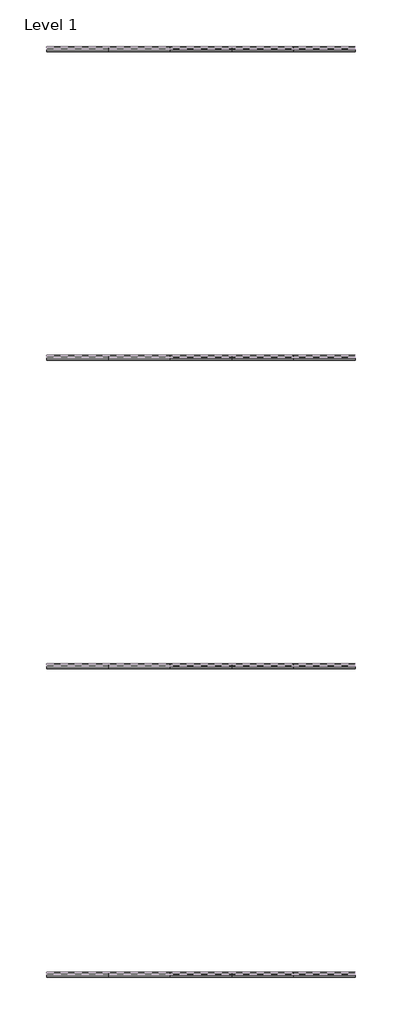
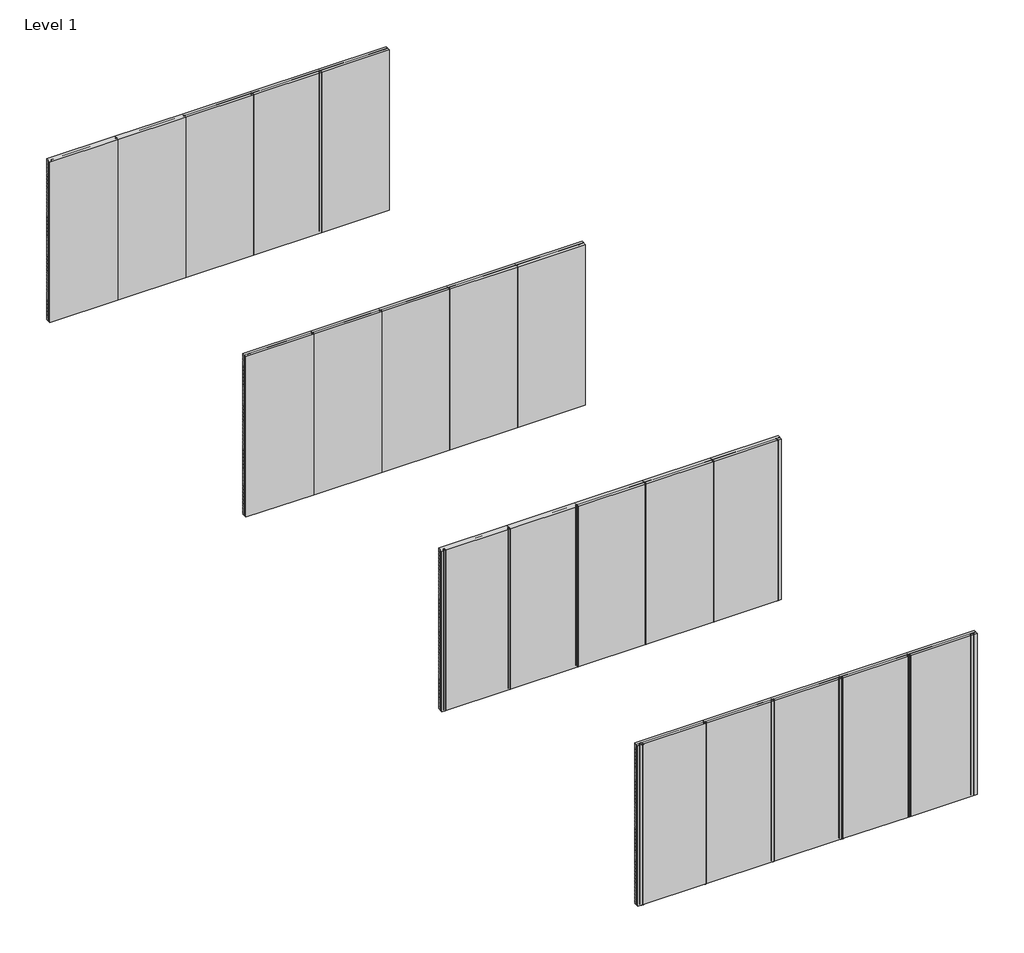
# One storey, part 1 of 7: 24 members, 24 plates, 16 proxies.
"""IFC4 building model written with IfcOpenShell, lengths in millimetres."""

from ifc_helpers import new_model, si_unit, point, frame, frame_2d, origin, origin_with_axes, place, context, project, spatial, polyline, circle_curve, trimmed, segment, composite_curve, outline, extrude, transform, mapped, element, save
from components import rectangular_mullion_aaee4241, rectangular_mullion_95122cee, rectangular_mullion_bf4a34f8, rectangular_mullion_973fa29d, rectangular_mullion_72dc8ee9, rectangular_mullion_73b5f130, rectangular_mullion_f7d141da, rectangular_mullion_19c265a5, rectangular_mullion_cd9c8af6, rectangular_mullion_e211853c, rectangular_mullion_fbfb117e, rectangular_mullion_bec287e4, empty_system_panel_empty_50a928b3

model = new_model("IFC4")

# Units and contexts
model_context = context("Model", 3, world=origin())
ifc_project = project(units=[si_unit("LENGTHUNIT", "METRE", prefix="MILLI")], contexts=[model_context])

# Site, building, storey
site = spatial("IfcSite", under=ifc_project)
building = spatial("IfcBuilding", under=site)
storey = spatial("IfcBuildingStorey", under=building, Name="Level 1", Elevation=0.0)

# Proxies
placement = place(None, origin())
element("IfcBuildingElementProxy", 1, Name="Wall Sweeps", at=placement, inside=storey, context=model_context, shape_type="SweptSolid", body=[
    extrude(outline(composite_curve([segment(polyline([(-13992.5, 2976.0025181), (-13992.5, 2983.9509429), (-13994.5, 2983.9509429), (-13994.5, 2981.5421319), (-13996.0, 2981.5421319), (-13996.0, 2988.6499999), (-13994.5, 2988.6499999), (-13994.5, 2985.4509429), (-13992.5, 2985.4509429), (-13992.5, 2988.7999999), (-13992.1784609, 2990.0), (-13987.7000054, 2990.0), (-13987.7000054, 2986.8499997), (-13989.0835735, 2988.4999997), (-13991.0, 2988.4999997), (-13991.0, 2976.6085574), (-13946.0, 2930.0096933), (-13946.0, 2914.0), (-13947.5, 2916.6798), (-13947.5, 2919.1208496), (-13948.5, 2919.1208496), (-13948.5, 2920.6208496), (-13947.5, 2920.6208496), (-13947.5, 2929.4036539), (-13961.2088107, 2943.599543), (-13963.4375599, 2941.3707939), (-13962.8739549, 2940.8071888)]), True, "CONTINUOUS"), segment(trimmed(circle_curve(frame_2d((-13963.2275083, 2940.4536354)), 0.5), [point((-13962.8739549, 2940.8071888))], [point((-13963.3569178, 2939.9706725))], False, "CARTESIAN"), True, "CONTINUOUS"), segment(polyline([(-13963.3569178, 2939.9706725), (-13966.1977917, 2940.7318824), (-13962.250957, 2944.6787171), (-13992.5, 2976.0025181)]), True, "CONTINUOUS")], self_intersect=False)), frame((0.0, 0.0, 0.0), z_axis=(1.0, 0.0, 0.0), x_axis=(0.0, 1.0, 0.0)), (0.0, 0.0, 1.0), 6000.0),
])
element("IfcBuildingElementProxy", 2, Name="Wall Sweeps", at=placement, inside=storey, context=model_context, shape_type="SweptSolid", body=[
    extrude(outline(composite_curve([segment(polyline([(-13992.5, 2911.0025181), (-13992.5, 2918.9509429), (-13994.5, 2918.9509429), (-13994.5, 2916.5421319), (-13996.0, 2916.5421319), (-13996.0, 2923.6499999), (-13994.5, 2923.6499999), (-13994.5, 2920.4509429), (-13992.5, 2920.4509429), (-13992.5, 2923.7999999), (-13992.1784609, 2925.0), (-13987.7000054, 2925.0), (-13987.7000054, 2921.8499997), (-13989.0835735, 2923.4999997), (-13991.0, 2923.4999997), (-13991.0, 2911.6085574), (-13946.0, 2865.0096933), (-13946.0, 2849.0), (-13947.5, 2851.6798), (-13947.5, 2854.1208496), (-13948.5, 2854.1208496), (-13948.5, 2855.6208496), (-13947.5, 2855.6208496), (-13947.5, 2864.4036539), (-13961.2088107, 2878.599543), (-13963.4375599, 2876.3707939), (-13962.8739549, 2875.8071888)]), True, "CONTINUOUS"), segment(trimmed(circle_curve(frame_2d((-13963.2275083, 2875.4536354)), 0.5), [point((-13962.8739549, 2875.8071888))], [point((-13963.3569178, 2874.9706725))], False, "CARTESIAN"), True, "CONTINUOUS"), segment(polyline([(-13963.3569178, 2874.9706725), (-13966.1977917, 2875.7318824), (-13962.250957, 2879.6787171), (-13992.5, 2911.0025181)]), True, "CONTINUOUS")], self_intersect=False)), frame((0.0, 0.0, 0.0), z_axis=(1.0, 0.0, 0.0), x_axis=(0.0, 1.0, 0.0)), (0.0, 0.0, 1.0), 6000.0),
])
element("IfcBuildingElementProxy", 3, Name="Wall Sweeps", at=placement, inside=storey, context=model_context, shape_type="SweptSolid", body=[
    extrude(outline(composite_curve([segment(polyline([(-13992.5, 2846.0025181), (-13992.5, 2853.9509429), (-13994.5, 2853.9509429), (-13994.5, 2851.5421319), (-13996.0, 2851.5421319), (-13996.0, 2858.6499999), (-13994.5, 2858.6499999), (-13994.5, 2855.4509429), (-13992.5, 2855.4509429), (-13992.5, 2858.7999999), (-13992.1784609, 2860.0), (-13987.7000054, 2860.0), (-13987.7000054, 2856.8499997), (-13989.0835735, 2858.4999997), (-13991.0, 2858.4999997), (-13991.0, 2846.6085574), (-13946.0, 2800.0096933), (-13946.0, 2784.0), (-13947.5, 2786.6798), (-13947.5, 2789.1208496), (-13948.5, 2789.1208496), (-13948.5, 2790.6208496), (-13947.5, 2790.6208496), (-13947.5, 2799.4036539), (-13961.2088107, 2813.599543), (-13963.4375599, 2811.3707939), (-13962.8739549, 2810.8071888)]), True, "CONTINUOUS"), segment(trimmed(circle_curve(frame_2d((-13963.2275083, 2810.4536354)), 0.5), [point((-13962.8739549, 2810.8071888))], [point((-13963.3569178, 2809.9706725))], False, "CARTESIAN"), True, "CONTINUOUS"), segment(polyline([(-13963.3569178, 2809.9706725), (-13966.1977917, 2810.7318824), (-13962.250957, 2814.6787171), (-13992.5, 2846.0025181)]), True, "CONTINUOUS")], self_intersect=False)), frame((0.0, 0.0, 0.0), z_axis=(1.0, 0.0, 0.0), x_axis=(0.0, 1.0, 0.0)), (0.0, 0.0, 1.0), 6000.0),
])
element("IfcBuildingElementProxy", 4, Name="Wall Sweeps", at=placement, inside=storey, context=model_context, shape_type="SweptSolid", body=[
    extrude(outline(composite_curve([segment(polyline([(-13992.5, 2781.0025181), (-13992.5, 2788.9509429), (-13994.5, 2788.9509429), (-13994.5, 2786.5421319), (-13996.0, 2786.5421319), (-13996.0, 2793.6499999), (-13994.5, 2793.6499999), (-13994.5, 2790.4509429), (-13992.5, 2790.4509429), (-13992.5, 2793.7999999), (-13992.1784609, 2795.0), (-13987.7000054, 2795.0), (-13987.7000054, 2791.8499997), (-13989.0835735, 2793.4999997), (-13991.0, 2793.4999997), (-13991.0, 2781.6085574), (-13946.0, 2735.0096933), (-13946.0, 2719.0), (-13947.5, 2721.6798), (-13947.5, 2724.1208496), (-13948.5, 2724.1208496), (-13948.5, 2725.6208496), (-13947.5, 2725.6208496), (-13947.5, 2734.4036539), (-13961.2088107, 2748.599543), (-13963.4375599, 2746.3707939), (-13962.8739549, 2745.8071888)]), True, "CONTINUOUS"), segment(trimmed(circle_curve(frame_2d((-13963.2275083, 2745.4536354)), 0.5), [point((-13962.8739549, 2745.8071888))], [point((-13963.3569178, 2744.9706725))], False, "CARTESIAN"), True, "CONTINUOUS"), segment(polyline([(-13963.3569178, 2744.9706725), (-13966.1977917, 2745.7318824), (-13962.250957, 2749.6787171), (-13992.5, 2781.0025181)]), True, "CONTINUOUS")], self_intersect=False)), frame((0.0, 0.0, 0.0), z_axis=(1.0, 0.0, 0.0), x_axis=(0.0, 1.0, 0.0)), (0.0, 0.0, 1.0), 6000.0),
])
element("IfcBuildingElementProxy", 5, Name="Wall Sweeps", at=placement, inside=storey, context=model_context, shape_type="SweptSolid", body=[
    extrude(outline(composite_curve([segment(polyline([(-13992.5, 2716.0025181), (-13992.5, 2723.9509429), (-13994.5, 2723.9509429), (-13994.5, 2721.5421319), (-13996.0, 2721.5421319), (-13996.0, 2728.6499999), (-13994.5, 2728.6499999), (-13994.5, 2725.4509429), (-13992.5, 2725.4509429), (-13992.5, 2728.7999999), (-13992.1784609, 2730.0), (-13987.7000054, 2730.0), (-13987.7000054, 2726.8499997), (-13989.0835735, 2728.4999997), (-13991.0, 2728.4999997), (-13991.0, 2716.6085574), (-13946.0, 2670.0096933), (-13946.0, 2654.0), (-13947.5, 2656.6798), (-13947.5, 2659.1208496), (-13948.5, 2659.1208496), (-13948.5, 2660.6208496), (-13947.5, 2660.6208496), (-13947.5, 2669.4036539), (-13961.2088107, 2683.599543), (-13963.4375599, 2681.3707939), (-13962.8739549, 2680.8071888)]), True, "CONTINUOUS"), segment(trimmed(circle_curve(frame_2d((-13963.2275083, 2680.4536354)), 0.5), [point((-13962.8739549, 2680.8071888))], [point((-13963.3569178, 2679.9706725))], False, "CARTESIAN"), True, "CONTINUOUS"), segment(polyline([(-13963.3569178, 2679.9706725), (-13966.1977917, 2680.7318824), (-13962.250957, 2684.6787171), (-13992.5, 2716.0025181)]), True, "CONTINUOUS")], self_intersect=False)), frame((0.0, 0.0, 0.0), z_axis=(1.0, 0.0, 0.0), x_axis=(0.0, 1.0, 0.0)), (0.0, 0.0, 1.0), 6000.0),
])
element("IfcBuildingElementProxy", 6, Name="Wall Sweeps", at=placement, inside=storey, context=model_context, shape_type="SweptSolid", body=[
    extrude(outline(composite_curve([segment(polyline([(-13992.5, 2651.0025181), (-13992.5, 2658.9509429), (-13994.5, 2658.9509429), (-13994.5, 2656.5421319), (-13996.0, 2656.5421319), (-13996.0, 2663.6499999), (-13994.5, 2663.6499999), (-13994.5, 2660.4509429), (-13992.5, 2660.4509429), (-13992.5, 2663.7999999), (-13992.1784609, 2665.0), (-13987.7000054, 2665.0), (-13987.7000054, 2661.8499997), (-13989.0835735, 2663.4999997), (-13991.0, 2663.4999997), (-13991.0, 2651.6085574), (-13946.0, 2605.0096933), (-13946.0, 2589.0), (-13947.5, 2591.6798), (-13947.5, 2594.1208496), (-13948.5, 2594.1208496), (-13948.5, 2595.6208496), (-13947.5, 2595.6208496), (-13947.5, 2604.4036539), (-13961.2088107, 2618.599543), (-13963.4375599, 2616.3707939), (-13962.8739549, 2615.8071888)]), True, "CONTINUOUS"), segment(trimmed(circle_curve(frame_2d((-13963.2275083, 2615.4536354)), 0.5), [point((-13962.8739549, 2615.8071888))], [point((-13963.3569178, 2614.9706725))], False, "CARTESIAN"), True, "CONTINUOUS"), segment(polyline([(-13963.3569178, 2614.9706725), (-13966.1977917, 2615.7318824), (-13962.250957, 2619.6787171), (-13992.5, 2651.0025181)]), True, "CONTINUOUS")], self_intersect=False)), frame((0.0, 0.0, 0.0), z_axis=(1.0, 0.0, 0.0), x_axis=(0.0, 1.0, 0.0)), (0.0, 0.0, 1.0), 6000.0),
])
element("IfcBuildingElementProxy", 7, Name="Wall Sweeps", at=placement, inside=storey, context=model_context, shape_type="SweptSolid", body=[
    extrude(outline(composite_curve([segment(polyline([(-13992.5, 2586.0025181), (-13992.5, 2593.9509429), (-13994.5, 2593.9509429), (-13994.5, 2591.5421319), (-13996.0, 2591.5421319), (-13996.0, 2598.6499999), (-13994.5, 2598.6499999), (-13994.5, 2595.4509429), (-13992.5, 2595.4509429), (-13992.5, 2598.7999999), (-13992.1784609, 2600.0), (-13987.7000054, 2600.0), (-13987.7000054, 2596.8499997), (-13989.0835735, 2598.4999997), (-13991.0, 2598.4999997), (-13991.0, 2586.6085574), (-13946.0, 2540.0096933), (-13946.0, 2524.0), (-13947.5, 2526.6798), (-13947.5, 2529.1208496), (-13948.5, 2529.1208496), (-13948.5, 2530.6208496), (-13947.5, 2530.6208496), (-13947.5, 2539.4036539), (-13961.2088107, 2553.599543), (-13963.4375599, 2551.3707939), (-13962.8739549, 2550.8071888)]), True, "CONTINUOUS"), segment(trimmed(circle_curve(frame_2d((-13963.2275083, 2550.4536354)), 0.5), [point((-13962.8739549, 2550.8071888))], [point((-13963.3569178, 2549.9706725))], False, "CARTESIAN"), True, "CONTINUOUS"), segment(polyline([(-13963.3569178, 2549.9706725), (-13966.1977917, 2550.7318824), (-13962.250957, 2554.6787171), (-13992.5, 2586.0025181)]), True, "CONTINUOUS")], self_intersect=False)), frame((0.0, 0.0, 0.0), z_axis=(1.0, 0.0, 0.0), x_axis=(0.0, 1.0, 0.0)), (0.0, 0.0, 1.0), 6000.0),
])
element("IfcBuildingElementProxy", 8, Name="Wall Sweeps", at=placement, inside=storey, context=model_context, shape_type="SweptSolid", body=[
    extrude(outline(composite_curve([segment(polyline([(-13992.5, 2521.0025181), (-13992.5, 2528.9509429), (-13994.5, 2528.9509429), (-13994.5, 2526.5421319), (-13996.0, 2526.5421319), (-13996.0, 2533.6499999), (-13994.5, 2533.6499999), (-13994.5, 2530.4509429), (-13992.5, 2530.4509429), (-13992.5, 2533.7999999), (-13992.1784609, 2535.0), (-13987.7000054, 2535.0), (-13987.7000054, 2531.8499997), (-13989.0835735, 2533.4999997), (-13991.0, 2533.4999997), (-13991.0, 2521.6085574), (-13946.0, 2475.0096933), (-13946.0, 2459.0), (-13947.5, 2461.6798), (-13947.5, 2464.1208496), (-13948.5, 2464.1208496), (-13948.5, 2465.6208496), (-13947.5, 2465.6208496), (-13947.5, 2474.4036539), (-13961.2088107, 2488.599543), (-13963.4375599, 2486.3707939), (-13962.8739549, 2485.8071888)]), True, "CONTINUOUS"), segment(trimmed(circle_curve(frame_2d((-13963.2275083, 2485.4536354)), 0.5), [point((-13962.8739549, 2485.8071888))], [point((-13963.3569178, 2484.9706725))], False, "CARTESIAN"), True, "CONTINUOUS"), segment(polyline([(-13963.3569178, 2484.9706725), (-13966.1977917, 2485.7318824), (-13962.250957, 2489.6787171), (-13992.5, 2521.0025181)]), True, "CONTINUOUS")], self_intersect=False)), frame((0.0, 0.0, 0.0), z_axis=(1.0, 0.0, 0.0), x_axis=(0.0, 1.0, 0.0)), (0.0, 0.0, 1.0), 6000.0),
])
element("IfcBuildingElementProxy", 9, Name="Wall Sweeps", at=placement, inside=storey, context=model_context, shape_type="SweptSolid", body=[
    extrude(outline(composite_curve([segment(polyline([(-13992.5, 2456.0025181), (-13992.5, 2463.9509429), (-13994.5, 2463.9509429), (-13994.5, 2461.5421319), (-13996.0, 2461.5421319), (-13996.0, 2468.6499999), (-13994.5, 2468.6499999), (-13994.5, 2465.4509429), (-13992.5, 2465.4509429), (-13992.5, 2468.7999999), (-13992.1784609, 2470.0), (-13987.7000054, 2470.0), (-13987.7000054, 2466.8499997), (-13989.0835735, 2468.4999997), (-13991.0, 2468.4999997), (-13991.0, 2456.6085574), (-13946.0, 2410.0096933), (-13946.0, 2394.0), (-13947.5, 2396.6798), (-13947.5, 2399.1208496), (-13948.5, 2399.1208496), (-13948.5, 2400.6208496), (-13947.5, 2400.6208496), (-13947.5, 2409.4036539), (-13961.2088107, 2423.599543), (-13963.4375599, 2421.3707939), (-13962.8739549, 2420.8071888)]), True, "CONTINUOUS"), segment(trimmed(circle_curve(frame_2d((-13963.2275083, 2420.4536354)), 0.5), [point((-13962.8739549, 2420.8071888))], [point((-13963.3569178, 2419.9706725))], False, "CARTESIAN"), True, "CONTINUOUS"), segment(polyline([(-13963.3569178, 2419.9706725), (-13966.1977917, 2420.7318824), (-13962.250957, 2424.6787171), (-13992.5, 2456.0025181)]), True, "CONTINUOUS")], self_intersect=False)), frame((0.0, 0.0, 0.0), z_axis=(1.0, 0.0, 0.0), x_axis=(0.0, 1.0, 0.0)), (0.0, 0.0, 1.0), 6000.0),
])
element("IfcBuildingElementProxy", 10, Name="Wall Sweeps", at=placement, inside=storey, context=model_context, shape_type="SweptSolid", body=[
    extrude(outline(composite_curve([segment(polyline([(-13992.5, 2391.0025181), (-13992.5, 2398.9509429), (-13994.5, 2398.9509429), (-13994.5, 2396.5421319), (-13996.0, 2396.5421319), (-13996.0, 2403.6499999), (-13994.5, 2403.6499999), (-13994.5, 2400.4509429), (-13992.5, 2400.4509429), (-13992.5, 2403.7999999), (-13992.1784609, 2405.0), (-13987.7000054, 2405.0), (-13987.7000054, 2401.8499997), (-13989.0835735, 2403.4999997), (-13991.0, 2403.4999997), (-13991.0, 2391.6085574), (-13946.0, 2345.0096933), (-13946.0, 2329.0), (-13947.5, 2331.6798), (-13947.5, 2334.1208496), (-13948.5, 2334.1208496), (-13948.5, 2335.6208496), (-13947.5, 2335.6208496), (-13947.5, 2344.4036539), (-13961.2088107, 2358.599543), (-13963.4375599, 2356.3707939), (-13962.8739549, 2355.8071888)]), True, "CONTINUOUS"), segment(trimmed(circle_curve(frame_2d((-13963.2275083, 2355.4536354)), 0.5), [point((-13962.8739549, 2355.8071888))], [point((-13963.3569178, 2354.9706725))], False, "CARTESIAN"), True, "CONTINUOUS"), segment(polyline([(-13963.3569178, 2354.9706725), (-13966.1977917, 2355.7318824), (-13962.250957, 2359.6787171), (-13992.5, 2391.0025181)]), True, "CONTINUOUS")], self_intersect=False)), frame((0.0, 0.0, 0.0), z_axis=(1.0, 0.0, 0.0), x_axis=(0.0, 1.0, 0.0)), (0.0, 0.0, 1.0), 6000.0),
])
element("IfcBuildingElementProxy", 11, Name="Wall Sweeps", at=placement, inside=storey, context=model_context, shape_type="SweptSolid", body=[
    extrude(outline(composite_curve([segment(polyline([(-13992.5, 2326.0025181), (-13992.5, 2333.9509429), (-13994.5, 2333.9509429), (-13994.5, 2331.5421319), (-13996.0, 2331.5421319), (-13996.0, 2338.6499999), (-13994.5, 2338.6499999), (-13994.5, 2335.4509429), (-13992.5, 2335.4509429), (-13992.5, 2338.7999999), (-13992.1784609, 2340.0), (-13987.7000054, 2340.0), (-13987.7000054, 2336.8499997), (-13989.0835735, 2338.4999997), (-13991.0, 2338.4999997), (-13991.0, 2326.6085574), (-13946.0, 2280.0096933), (-13946.0, 2264.0), (-13947.5, 2266.6798), (-13947.5, 2269.1208496), (-13948.5, 2269.1208496), (-13948.5, 2270.6208496), (-13947.5, 2270.6208496), (-13947.5, 2279.4036539), (-13961.2088107, 2293.599543), (-13963.4375599, 2291.3707939), (-13962.8739549, 2290.8071888)]), True, "CONTINUOUS"), segment(trimmed(circle_curve(frame_2d((-13963.2275083, 2290.4536354)), 0.5), [point((-13962.8739549, 2290.8071888))], [point((-13963.3569178, 2289.9706725))], False, "CARTESIAN"), True, "CONTINUOUS"), segment(polyline([(-13963.3569178, 2289.9706725), (-13966.1977917, 2290.7318824), (-13962.250957, 2294.6787171), (-13992.5, 2326.0025181)]), True, "CONTINUOUS")], self_intersect=False)), frame((0.0, 0.0, 0.0), z_axis=(1.0, 0.0, 0.0), x_axis=(0.0, 1.0, 0.0)), (0.0, 0.0, 1.0), 6000.0),
])
element("IfcBuildingElementProxy", 12, Name="Wall Sweeps", at=placement, inside=storey, context=model_context, shape_type="SweptSolid", body=[
    extrude(outline(composite_curve([segment(polyline([(-13992.5, 2261.0025181), (-13992.5, 2268.9509429), (-13994.5, 2268.9509429), (-13994.5, 2266.5421319), (-13996.0, 2266.5421319), (-13996.0, 2273.6499999), (-13994.5, 2273.6499999), (-13994.5, 2270.4509429), (-13992.5, 2270.4509429), (-13992.5, 2273.7999999), (-13992.1784609, 2275.0), (-13987.7000054, 2275.0), (-13987.7000054, 2271.8499997), (-13989.0835735, 2273.4999997), (-13991.0, 2273.4999997), (-13991.0, 2261.6085574), (-13946.0, 2215.0096933), (-13946.0, 2199.0), (-13947.5, 2201.6798), (-13947.5, 2204.1208496), (-13948.5, 2204.1208496), (-13948.5, 2205.6208496), (-13947.5, 2205.6208496), (-13947.5, 2214.4036539), (-13961.2088107, 2228.599543), (-13963.4375599, 2226.3707939), (-13962.8739549, 2225.8071888)]), True, "CONTINUOUS"), segment(trimmed(circle_curve(frame_2d((-13963.2275083, 2225.4536354)), 0.5), [point((-13962.8739549, 2225.8071888))], [point((-13963.3569178, 2224.9706725))], False, "CARTESIAN"), True, "CONTINUOUS"), segment(polyline([(-13963.3569178, 2224.9706725), (-13966.1977917, 2225.7318824), (-13962.250957, 2229.6787171), (-13992.5, 2261.0025181)]), True, "CONTINUOUS")], self_intersect=False)), frame((0.0, 0.0, 0.0), z_axis=(1.0, 0.0, 0.0), x_axis=(0.0, 1.0, 0.0)), (0.0, 0.0, 1.0), 6000.0),
])
element("IfcBuildingElementProxy", 13, Name="Wall Sweeps", at=placement, inside=storey, context=model_context, shape_type="SweptSolid", body=[
    extrude(outline(composite_curve([segment(polyline([(-13992.5, 2196.0025181), (-13992.5, 2203.9509429), (-13994.5, 2203.9509429), (-13994.5, 2201.5421319), (-13996.0, 2201.5421319), (-13996.0, 2208.6499999), (-13994.5, 2208.6499999), (-13994.5, 2205.4509429), (-13992.5, 2205.4509429), (-13992.5, 2208.7999999), (-13992.1784609, 2210.0), (-13987.7000054, 2210.0), (-13987.7000054, 2206.8499997), (-13989.0835735, 2208.4999997), (-13991.0, 2208.4999997), (-13991.0, 2196.6085574), (-13946.0, 2150.0096933), (-13946.0, 2134.0), (-13947.5, 2136.6798), (-13947.5, 2139.1208496), (-13948.5, 2139.1208496), (-13948.5, 2140.6208496), (-13947.5, 2140.6208496), (-13947.5, 2149.4036539), (-13961.2088107, 2163.599543), (-13963.4375599, 2161.3707939), (-13962.8739549, 2160.8071888)]), True, "CONTINUOUS"), segment(trimmed(circle_curve(frame_2d((-13963.2275083, 2160.4536354)), 0.5), [point((-13962.8739549, 2160.8071888))], [point((-13963.3569178, 2159.9706725))], False, "CARTESIAN"), True, "CONTINUOUS"), segment(polyline([(-13963.3569178, 2159.9706725), (-13966.1977917, 2160.7318824), (-13962.250957, 2164.6787171), (-13992.5, 2196.0025181)]), True, "CONTINUOUS")], self_intersect=False)), frame((0.0, 0.0, 0.0), z_axis=(1.0, 0.0, 0.0), x_axis=(0.0, 1.0, 0.0)), (0.0, 0.0, 1.0), 6000.0),
])
element("IfcBuildingElementProxy", 14, Name="Wall Sweeps", at=placement, inside=storey, context=model_context, shape_type="SweptSolid", body=[
    extrude(outline(composite_curve([segment(polyline([(-13992.5, 2131.0025181), (-13992.5, 2138.9509429), (-13994.5, 2138.9509429), (-13994.5, 2136.5421319), (-13996.0, 2136.5421319), (-13996.0, 2143.6499999), (-13994.5, 2143.6499999), (-13994.5, 2140.4509429), (-13992.5, 2140.4509429), (-13992.5, 2143.7999999), (-13992.1784609, 2145.0), (-13987.7000054, 2145.0), (-13987.7000054, 2141.8499997), (-13989.0835735, 2143.4999997), (-13991.0, 2143.4999997), (-13991.0, 2131.6085574), (-13946.0, 2085.0096933), (-13946.0, 2069.0), (-13947.5, 2071.6798), (-13947.5, 2074.1208496), (-13948.5, 2074.1208496), (-13948.5, 2075.6208496), (-13947.5, 2075.6208496), (-13947.5, 2084.4036539), (-13961.2088107, 2098.599543), (-13963.4375599, 2096.3707939), (-13962.8739549, 2095.8071888)]), True, "CONTINUOUS"), segment(trimmed(circle_curve(frame_2d((-13963.2275083, 2095.4536354)), 0.5), [point((-13962.8739549, 2095.8071888))], [point((-13963.3569178, 2094.9706725))], False, "CARTESIAN"), True, "CONTINUOUS"), segment(polyline([(-13963.3569178, 2094.9706725), (-13966.1977917, 2095.7318824), (-13962.250957, 2099.6787171), (-13992.5, 2131.0025181)]), True, "CONTINUOUS")], self_intersect=False)), frame((0.0, 0.0, 0.0), z_axis=(1.0, 0.0, 0.0), x_axis=(0.0, 1.0, 0.0)), (0.0, 0.0, 1.0), 6000.0),
])
element("IfcBuildingElementProxy", 15, Name="Wall Sweeps", at=placement, inside=storey, context=model_context, shape_type="SweptSolid", body=[
    extrude(outline(composite_curve([segment(polyline([(-13992.5, 2066.0025181), (-13992.5, 2073.9509429), (-13994.5, 2073.9509429), (-13994.5, 2071.5421319), (-13996.0, 2071.5421319), (-13996.0, 2078.6499999), (-13994.5, 2078.6499999), (-13994.5, 2075.4509429), (-13992.5, 2075.4509429), (-13992.5, 2078.7999999), (-13992.1784609, 2080.0), (-13987.7000054, 2080.0), (-13987.7000054, 2076.8499997), (-13989.0835735, 2078.4999997), (-13991.0, 2078.4999997), (-13991.0, 2066.6085574), (-13946.0, 2020.0096933), (-13946.0, 2004.0), (-13947.5, 2006.6798), (-13947.5, 2009.1208496), (-13948.5, 2009.1208496), (-13948.5, 2010.6208496), (-13947.5, 2010.6208496), (-13947.5, 2019.4036539), (-13961.2088107, 2033.599543), (-13963.4375599, 2031.3707939), (-13962.8739549, 2030.8071888)]), True, "CONTINUOUS"), segment(trimmed(circle_curve(frame_2d((-13963.2275083, 2030.4536354)), 0.5), [point((-13962.8739549, 2030.8071888))], [point((-13963.3569178, 2029.9706725))], False, "CARTESIAN"), True, "CONTINUOUS"), segment(polyline([(-13963.3569178, 2029.9706725), (-13966.1977917, 2030.7318824), (-13962.250957, 2034.6787171), (-13992.5, 2066.0025181)]), True, "CONTINUOUS")], self_intersect=False)), frame((0.0, 0.0, 0.0), z_axis=(1.0, 0.0, 0.0), x_axis=(0.0, 1.0, 0.0)), (0.0, 0.0, 1.0), 6000.0),
])
element("IfcBuildingElementProxy", 16, Name="Wall Sweeps", at=placement, inside=storey, context=model_context, shape_type="SweptSolid", body=[
    extrude(outline(composite_curve([segment(polyline([(-13992.5, 2001.0025181), (-13992.5, 2008.9509429), (-13994.5, 2008.9509429), (-13994.5, 2006.5421319), (-13996.0, 2006.5421319), (-13996.0, 2013.6499999), (-13994.5, 2013.6499999), (-13994.5, 2010.4509429), (-13992.5, 2010.4509429), (-13992.5, 2013.7999999), (-13992.1784609, 2015.0), (-13987.7000054, 2015.0), (-13987.7000054, 2011.8499997), (-13989.0835735, 2013.4999997), (-13991.0, 2013.4999997), (-13991.0, 2001.6085574), (-13946.0, 1955.0096933), (-13946.0, 1939.0), (-13947.5, 1941.6798), (-13947.5, 1944.1208496), (-13948.5, 1944.1208496), (-13948.5, 1945.6208496), (-13947.5, 1945.6208496), (-13947.5, 1954.4036539), (-13961.2088107, 1968.599543), (-13963.4375599, 1966.3707939), (-13962.8739549, 1965.8071888)]), True, "CONTINUOUS"), segment(trimmed(circle_curve(frame_2d((-13963.2275083, 1965.4536354)), 0.5), [point((-13962.8739549, 1965.8071888))], [point((-13963.3569178, 1964.9706725))], False, "CARTESIAN"), True, "CONTINUOUS"), segment(polyline([(-13963.3569178, 1964.9706725), (-13966.1977917, 1965.7318824), (-13962.250957, 1969.6787171), (-13992.5, 2001.0025181)]), True, "CONTINUOUS")], self_intersect=False)), frame((0.0, 0.0, 0.0), z_axis=(1.0, 0.0, 0.0), x_axis=(0.0, 1.0, 0.0)), (0.0, 0.0, 1.0), 6000.0),
])

# Members
rectangular_mullion_shape = rectangular_mullion_aaee4241(model_context)
element("IfcMember", 17, ObjectType="Rectangular Mullion : RSen_21_CWM_support profile - 50x12 - left_duco projects", at=placement, inside=storey, context=model_context, shape_type="MappedRepresentation", body=[
    mapped(rectangular_mullion_shape, transform((0.0, -2000.0, 0.0), x_axis=(-1.0, 0.0, 0.0), y_axis=(0.0, 1.0, 0.0), z_axis=(0.0, 0.0, -1.0))),
])
rectangular_mullion_2_shape = rectangular_mullion_95122cee(model_context)
element("IfcMember", 18, ObjectType="Rectangular Mullion : RSen_21_CWM_support profile - 50x12 - right_duco projects", at=placement, inside=storey, context=model_context, shape_type="MappedRepresentation", body=[
    mapped(rectangular_mullion_2_shape, transform((6000.0, -2000.0, 3000.0), x_axis=(1.0, 0.0, 0.0), y_axis=(0.0, 1.0, 0.0), z_axis=(0.0, 0.0, 1.0))),
])
rectangular_mullion_3_shape = rectangular_mullion_bf4a34f8(model_context)
element("IfcMember", 19, ObjectType="Rectangular Mullion : RSen_21_CWM_support profile - 21x50 Multi - left_duco projects", at=placement, inside=storey, context=model_context, shape_type="MappedRepresentation", body=[
    mapped(rectangular_mullion_3_shape, transform((0.0, -8000.0, 0.0), x_axis=(-1.0, 0.0, 0.0), y_axis=(0.0, 1.0, 0.0), z_axis=(0.0, 0.0, -1.0))),
])
rectangular_mullion_4_shape = rectangular_mullion_973fa29d(model_context)
element("IfcMember", 20, ObjectType="Rectangular Mullion : RSen_21_CWM_support profile - 21x50 Multi - right_duco projects", at=placement, inside=storey, context=model_context, shape_type="MappedRepresentation", body=[
    mapped(rectangular_mullion_4_shape, transform((6000.0, -8000.0, 3000.0), x_axis=(1.0, 0.0, 0.0), y_axis=(0.0, 1.0, 0.0), z_axis=(0.0, 0.0, 1.0))),
])
rectangular_mullion_5_shape = rectangular_mullion_72dc8ee9(model_context)
element("IfcMember", 21, ObjectType="Rectangular Mullion : RSen_21_CWM_support profile - 50x50 - left_duco projects", at=placement, inside=storey, context=model_context, shape_type="MappedRepresentation", body=[
    mapped(rectangular_mullion_5_shape, transform((0.0, -14000.0, 0.0), x_axis=(-1.0, 0.0, 0.0), y_axis=(0.0, 1.0, 0.0), z_axis=(0.0, 0.0, -1.0))),
])
rectangular_mullion_6_shape = rectangular_mullion_73b5f130(model_context)
element("IfcMember", 22, ObjectType="Rectangular Mullion : RSen_21_CWM_support profile - 50x50 - right_duco projects", at=placement, inside=storey, context=model_context, shape_type="MappedRepresentation", body=[
    mapped(rectangular_mullion_6_shape, transform((6000.0, -14000.0, 3000.0), x_axis=(1.0, 0.0, 0.0), y_axis=(0.0, 1.0, 0.0), z_axis=(0.0, 0.0, 1.0))),
])
rectangular_mullion_7_shape = rectangular_mullion_f7d141da(model_context)
element("IfcMember", 23, ObjectType="Rectangular Mullion : RSen_21_CWM_support profile - 50x12_duco projects", at=placement, inside=storey, context=model_context, shape_type="MappedRepresentation", body=[
    mapped(rectangular_mullion_7_shape, transform((4800.0, -2000.0, 0.0), x_axis=(-1.0, 0.0, 0.0), y_axis=(0.0, 1.0, 0.0), z_axis=(0.0, 0.0, -1.0))),
])
element("IfcMember", 24, ObjectType="Rectangular Mullion : RSen_21_CWM_support profile - 50x12_duco projects", at=placement, inside=storey, context=model_context, shape_type="MappedRepresentation", body=[
    mapped(rectangular_mullion_7_shape, transform((3600.0, -2000.0, 0.0), x_axis=(-1.0, 0.0, 0.0), y_axis=(0.0, 1.0, 0.0), z_axis=(0.0, 0.0, -1.0))),
])
element("IfcMember", 25, ObjectType="Rectangular Mullion : RSen_21_CWM_support profile - 50x12_duco projects", at=placement, inside=storey, context=model_context, shape_type="MappedRepresentation", body=[
    mapped(rectangular_mullion_7_shape, transform((2400.0, -2000.0, 0.0), x_axis=(-1.0, 0.0, 0.0), y_axis=(0.0, 1.0, 0.0), z_axis=(0.0, 0.0, -1.0))),
])
element("IfcMember", 26, ObjectType="Rectangular Mullion : RSen_21_CWM_support profile - 50x12_duco projects", at=placement, inside=storey, context=model_context, shape_type="MappedRepresentation", body=[
    mapped(rectangular_mullion_7_shape, transform((1200.0, -2000.0, 0.0), x_axis=(-1.0, 0.0, 0.0), y_axis=(0.0, 1.0, 0.0), z_axis=(0.0, 0.0, -1.0))),
])
rectangular_mullion_8_shape = rectangular_mullion_19c265a5(model_context)
element("IfcMember", 27, ObjectType="Rectangular Mullion : RSen_21_CWM_support profile - 21x50 Multi_duco projects", at=placement, inside=storey, context=model_context, shape_type="MappedRepresentation", body=[
    mapped(rectangular_mullion_8_shape, transform((4800.0, -8000.0, 0.0), x_axis=(-1.0, 0.0, 0.0), y_axis=(0.0, 1.0, 0.0), z_axis=(0.0, 0.0, -1.0))),
])
element("IfcMember", 28, ObjectType="Rectangular Mullion : RSen_21_CWM_support profile - 21x50 Multi_duco projects", at=placement, inside=storey, context=model_context, shape_type="MappedRepresentation", body=[
    mapped(rectangular_mullion_8_shape, transform((3600.0, -8000.0, 0.0), x_axis=(-1.0, 0.0, 0.0), y_axis=(0.0, 1.0, 0.0), z_axis=(0.0, 0.0, -1.0))),
])
element("IfcMember", 29, ObjectType="Rectangular Mullion : RSen_21_CWM_support profile - 21x50 Multi_duco projects", at=placement, inside=storey, context=model_context, shape_type="MappedRepresentation", body=[
    mapped(rectangular_mullion_8_shape, transform((2400.0, -8000.0, 0.0), x_axis=(-1.0, 0.0, 0.0), y_axis=(0.0, 1.0, 0.0), z_axis=(0.0, 0.0, -1.0))),
])
element("IfcMember", 30, ObjectType="Rectangular Mullion : RSen_21_CWM_support profile - 21x50 Multi_duco projects", at=placement, inside=storey, context=model_context, shape_type="MappedRepresentation", body=[
    mapped(rectangular_mullion_8_shape, transform((1200.0, -8000.0, 0.0), x_axis=(-1.0, 0.0, 0.0), y_axis=(0.0, 1.0, 0.0), z_axis=(0.0, 0.0, -1.0))),
])
rectangular_mullion_9_shape = rectangular_mullion_cd9c8af6(model_context)
element("IfcMember", 31, ObjectType="Rectangular Mullion : RSen_21_CWM_support profile - 50x50_duco projects", at=placement, inside=storey, context=model_context, shape_type="MappedRepresentation", body=[
    mapped(rectangular_mullion_9_shape, transform((4800.0, -14000.0, 0.0), x_axis=(-1.0, 0.0, 0.0), y_axis=(0.0, 1.0, 0.0), z_axis=(0.0, 0.0, -1.0))),
])
element("IfcMember", 32, ObjectType="Rectangular Mullion : RSen_21_CWM_support profile - 50x50_duco projects", at=placement, inside=storey, context=model_context, shape_type="MappedRepresentation", body=[
    mapped(rectangular_mullion_9_shape, transform((3600.0, -14000.0, 0.0), x_axis=(-1.0, 0.0, 0.0), y_axis=(0.0, 1.0, 0.0), z_axis=(0.0, 0.0, -1.0))),
])
element("IfcMember", 33, ObjectType="Rectangular Mullion : RSen_21_CWM_support profile - 50x50_duco projects", at=placement, inside=storey, context=model_context, shape_type="MappedRepresentation", body=[
    mapped(rectangular_mullion_9_shape, transform((2400.0, -14000.0, 0.0), x_axis=(-1.0, 0.0, 0.0), y_axis=(0.0, 1.0, 0.0), z_axis=(0.0, 0.0, -1.0))),
])
element("IfcMember", 34, ObjectType="Rectangular Mullion : RSen_21_CWM_support profile - 50x50_duco projects", at=placement, inside=storey, context=model_context, shape_type="MappedRepresentation", body=[
    mapped(rectangular_mullion_9_shape, transform((1200.0, -14000.0, 0.0), x_axis=(-1.0, 0.0, 0.0), y_axis=(0.0, 1.0, 0.0), z_axis=(0.0, 0.0, -1.0))),
])
rectangular_mullion_10_shape = rectangular_mullion_e211853c(model_context)
element("IfcMember", 35, ObjectType="Rectangular Mullion : RSen_21_CWM_support profile - 30x12_duco projects", at=placement, inside=storey, context=model_context, shape_type="MappedRepresentation", body=[
    mapped(rectangular_mullion_10_shape, transform((4800.0, 4000.0, 0.0), x_axis=(-1.0, 0.0, 0.0), y_axis=(0.0, 1.0, 0.0), z_axis=(0.0, 0.0, -1.0))),
])
element("IfcMember", 36, ObjectType="Rectangular Mullion : RSen_21_CWM_support profile - 30x12_duco projects", at=placement, inside=storey, context=model_context, shape_type="MappedRepresentation", body=[
    mapped(rectangular_mullion_10_shape, transform((3600.0, 4000.0, 0.0), x_axis=(-1.0, 0.0, 0.0), y_axis=(0.0, 1.0, 0.0), z_axis=(0.0, 0.0, -1.0))),
])
element("IfcMember", 37, ObjectType="Rectangular Mullion : RSen_21_CWM_support profile - 30x12_duco projects", at=placement, inside=storey, context=model_context, shape_type="MappedRepresentation", body=[
    mapped(rectangular_mullion_10_shape, transform((2400.0, 4000.0, 0.0), x_axis=(-1.0, 0.0, 0.0), y_axis=(0.0, 1.0, 0.0), z_axis=(0.0, 0.0, -1.0))),
])
element("IfcMember", 38, ObjectType="Rectangular Mullion : RSen_21_CWM_support profile - 30x12_duco projects", at=placement, inside=storey, context=model_context, shape_type="MappedRepresentation", body=[
    mapped(rectangular_mullion_10_shape, transform((1200.0, 4000.0, 0.0), x_axis=(-1.0, 0.0, 0.0), y_axis=(0.0, 1.0, 0.0), z_axis=(0.0, 0.0, -1.0))),
])
rectangular_mullion_11_shape = rectangular_mullion_fbfb117e(model_context)
element("IfcMember", 39, ObjectType="Rectangular Mullion : RSen_21_CWM_support profile - 30x12 - left_duco projects", at=placement, inside=storey, context=model_context, shape_type="MappedRepresentation", body=[
    mapped(rectangular_mullion_11_shape, transform((0.0, 4000.0, 0.0), x_axis=(-1.0, 0.0, 0.0), y_axis=(0.0, 1.0, 0.0), z_axis=(0.0, 0.0, -1.0))),
])
rectangular_mullion_12_shape = rectangular_mullion_bec287e4(model_context)
element("IfcMember", 40, ObjectType="Rectangular Mullion : RSen_21_CWM_support profile - 30x12 - right_duco projects", at=placement, inside=storey, context=model_context, shape_type="MappedRepresentation", body=[
    mapped(rectangular_mullion_12_shape, transform((6000.0, 4000.0, 3000.0), x_axis=(1.0, 0.0, 0.0), y_axis=(0.0, 1.0, 0.0), z_axis=(0.0, 0.0, 1.0))),
])

# Plates
element("IfcPlate", 41, ObjectType="RSen_21_WA_louvre blade classic W 50Z_duco projects", at=placement, inside=storey, context=model_context, shape_type="SweptSolid", body=[
    extrude(outline(polyline([(0.0, -1999.0), (6000.0, -1999.0), (6000.0, -2001.0), (0.0, -2001.0), (0.0, -1999.0)])), origin_with_axes(), (0.0, 0.0, 1.0), 3000.0),
])
element("IfcPlate", 42, ObjectType="RSen_21_WA_louvre blade classic W 50Z_duco projects", at=placement, inside=storey, context=model_context, shape_type="SweptSolid", body=[
    extrude(outline(polyline([(0.0, -7999.0), (6000.0, -7999.0), (6000.0, -8001.0), (0.0, -8001.0), (0.0, -7999.0)])), origin_with_axes(), (0.0, 0.0, 1.0), 3000.0),
])
element("IfcPlate", 43, ObjectType="RSen_21_WA_louvre blade classic W 50Z_duco projects", at=placement, inside=storey, context=model_context, shape_type="SweptSolid", body=[
    extrude(outline(polyline([(0.0, -13999.0), (6000.0, -13999.0), (6000.0, -14001.0), (0.0, -14001.0), (0.0, -13999.0)])), origin_with_axes(), (0.0, 0.0, 1.0), 3000.0),
])
element("IfcPlate", 44, ObjectType="RSen_21_WA_louvre blade classic W 50Z_duco projects", at=placement, inside=storey, context=model_context, shape_type="SweptSolid", body=[
    extrude(outline(polyline([(0.0, 4001.0), (6000.0, 4001.0), (6000.0, 3999.0), (0.0, 3999.0), (0.0, 4001.0)])), origin_with_axes(), (0.0, 0.0, 1.0), 3000.0),
])
empty_system_panel_empty_shape = empty_system_panel_empty_50a928b3(model_context)
element("IfcPlate", 45, ObjectType="Empty System Panel : Empty", at=placement, inside=storey, context=model_context, shape_type="MappedRepresentation", body=[
    mapped(empty_system_panel_empty_shape, transform((5400.0, -2000.0, 0.0), x_axis=(-1.0, 0.0, 0.0), y_axis=(0.0, -1.0, 0.0), z_axis=(0.0, 0.0, 1.0))),
])
element("IfcPlate", 46, ObjectType="Empty System Panel : Empty", at=placement, inside=storey, context=model_context, shape_type="MappedRepresentation", body=[
    mapped(empty_system_panel_empty_shape, transform((5400.0, -8000.0, 0.0), x_axis=(-1.0, 0.0, 0.0), y_axis=(0.0, -1.0, 0.0), z_axis=(0.0, 0.0, 1.0))),
])
element("IfcPlate", 47, ObjectType="Empty System Panel : Empty", at=placement, inside=storey, context=model_context, shape_type="MappedRepresentation", body=[
    mapped(empty_system_panel_empty_shape, transform((5400.0, -14000.0, 0.0), x_axis=(-1.0, 0.0, 0.0), y_axis=(0.0, -1.0, 0.0), z_axis=(0.0, 0.0, 1.0))),
])
element("IfcPlate", 48, ObjectType="Empty System Panel : Empty", at=placement, inside=storey, context=model_context, shape_type="MappedRepresentation", body=[
    mapped(empty_system_panel_empty_shape, transform((4200.0, -2000.0, 0.0), x_axis=(-1.0, 0.0, 0.0), y_axis=(0.0, -1.0, 0.0), z_axis=(0.0, 0.0, 1.0))),
])
element("IfcPlate", 49, ObjectType="Empty System Panel : Empty", at=placement, inside=storey, context=model_context, shape_type="MappedRepresentation", body=[
    mapped(empty_system_panel_empty_shape, transform((3000.0, -2000.0, 0.0), x_axis=(-1.0, 0.0, 0.0), y_axis=(0.0, -1.0, 0.0), z_axis=(0.0, 0.0, 1.0))),
])
element("IfcPlate", 50, ObjectType="Empty System Panel : Empty", at=placement, inside=storey, context=model_context, shape_type="MappedRepresentation", body=[
    mapped(empty_system_panel_empty_shape, transform((1800.0, -2000.0, 0.0), x_axis=(-1.0, 0.0, 0.0), y_axis=(0.0, -1.0, 0.0), z_axis=(0.0, 0.0, 1.0))),
])
element("IfcPlate", 51, ObjectType="Empty System Panel : Empty", at=placement, inside=storey, context=model_context, shape_type="MappedRepresentation", body=[
    mapped(empty_system_panel_empty_shape, transform((600.0, -2000.0, 0.0), x_axis=(-1.0, 0.0, 0.0), y_axis=(0.0, -1.0, 0.0), z_axis=(0.0, 0.0, 1.0))),
])
element("IfcPlate", 52, ObjectType="Empty System Panel : Empty", at=placement, inside=storey, context=model_context, shape_type="MappedRepresentation", body=[
    mapped(empty_system_panel_empty_shape, transform((4200.0, -8000.0, 0.0), x_axis=(-1.0, 0.0, 0.0), y_axis=(0.0, -1.0, 0.0), z_axis=(0.0, 0.0, 1.0))),
])
element("IfcPlate", 53, ObjectType="Empty System Panel : Empty", at=placement, inside=storey, context=model_context, shape_type="MappedRepresentation", body=[
    mapped(empty_system_panel_empty_shape, transform((3000.0, -8000.0, 0.0), x_axis=(-1.0, 0.0, 0.0), y_axis=(0.0, -1.0, 0.0), z_axis=(0.0, 0.0, 1.0))),
])
element("IfcPlate", 54, ObjectType="Empty System Panel : Empty", at=placement, inside=storey, context=model_context, shape_type="MappedRepresentation", body=[
    mapped(empty_system_panel_empty_shape, transform((1800.0, -8000.0, 0.0), x_axis=(-1.0, 0.0, 0.0), y_axis=(0.0, -1.0, 0.0), z_axis=(0.0, 0.0, 1.0))),
])
element("IfcPlate", 55, ObjectType="Empty System Panel : Empty", at=placement, inside=storey, context=model_context, shape_type="MappedRepresentation", body=[
    mapped(empty_system_panel_empty_shape, transform((600.0, -8000.0, 0.0), x_axis=(-1.0, 0.0, 0.0), y_axis=(0.0, -1.0, 0.0), z_axis=(0.0, 0.0, 1.0))),
])
element("IfcPlate", 56, ObjectType="Empty System Panel : Empty", at=placement, inside=storey, context=model_context, shape_type="MappedRepresentation", body=[
    mapped(empty_system_panel_empty_shape, transform((4200.0, -14000.0, 0.0), x_axis=(-1.0, 0.0, 0.0), y_axis=(0.0, -1.0, 0.0), z_axis=(0.0, 0.0, 1.0))),
])
element("IfcPlate", 57, ObjectType="Empty System Panel : Empty", at=placement, inside=storey, context=model_context, shape_type="MappedRepresentation", body=[
    mapped(empty_system_panel_empty_shape, transform((3000.0, -14000.0, 0.0), x_axis=(-1.0, 0.0, 0.0), y_axis=(0.0, -1.0, 0.0), z_axis=(0.0, 0.0, 1.0))),
])
element("IfcPlate", 58, ObjectType="Empty System Panel : Empty", at=placement, inside=storey, context=model_context, shape_type="MappedRepresentation", body=[
    mapped(empty_system_panel_empty_shape, transform((1800.0, -14000.0, 0.0), x_axis=(-1.0, 0.0, 0.0), y_axis=(0.0, -1.0, 0.0), z_axis=(0.0, 0.0, 1.0))),
])
element("IfcPlate", 59, ObjectType="Empty System Panel : Empty", at=placement, inside=storey, context=model_context, shape_type="MappedRepresentation", body=[
    mapped(empty_system_panel_empty_shape, transform((600.0, -14000.0, 0.0), x_axis=(-1.0, 0.0, 0.0), y_axis=(0.0, -1.0, 0.0), z_axis=(0.0, 0.0, 1.0))),
])
element("IfcPlate", 60, ObjectType="Empty System Panel : Empty", at=placement, inside=storey, context=model_context, shape_type="MappedRepresentation", body=[
    mapped(empty_system_panel_empty_shape, transform((5400.0, 4000.0, 0.0), x_axis=(-1.0, 0.0, 0.0), y_axis=(0.0, -1.0, 0.0), z_axis=(0.0, 0.0, 1.0))),
])
element("IfcPlate", 61, ObjectType="Empty System Panel : Empty", at=placement, inside=storey, context=model_context, shape_type="MappedRepresentation", body=[
    mapped(empty_system_panel_empty_shape, transform((4200.0, 4000.0, 0.0), x_axis=(-1.0, 0.0, 0.0), y_axis=(0.0, -1.0, 0.0), z_axis=(0.0, 0.0, 1.0))),
])
element("IfcPlate", 62, ObjectType="Empty System Panel : Empty", at=placement, inside=storey, context=model_context, shape_type="MappedRepresentation", body=[
    mapped(empty_system_panel_empty_shape, transform((3000.0, 4000.0, 0.0), x_axis=(-1.0, 0.0, 0.0), y_axis=(0.0, -1.0, 0.0), z_axis=(0.0, 0.0, 1.0))),
])
element("IfcPlate", 63, ObjectType="Empty System Panel : Empty", at=placement, inside=storey, context=model_context, shape_type="MappedRepresentation", body=[
    mapped(empty_system_panel_empty_shape, transform((1800.0, 4000.0, 0.0), x_axis=(-1.0, 0.0, 0.0), y_axis=(0.0, -1.0, 0.0), z_axis=(0.0, 0.0, 1.0))),
])
element("IfcPlate", 64, ObjectType="Empty System Panel : Empty", at=placement, inside=storey, context=model_context, shape_type="MappedRepresentation", body=[
    mapped(empty_system_panel_empty_shape, transform((600.0, 4000.0, 0.0), x_axis=(-1.0, 0.0, 0.0), y_axis=(0.0, -1.0, 0.0), z_axis=(0.0, 0.0, 1.0))),
])

save(model, "model.ifc")
